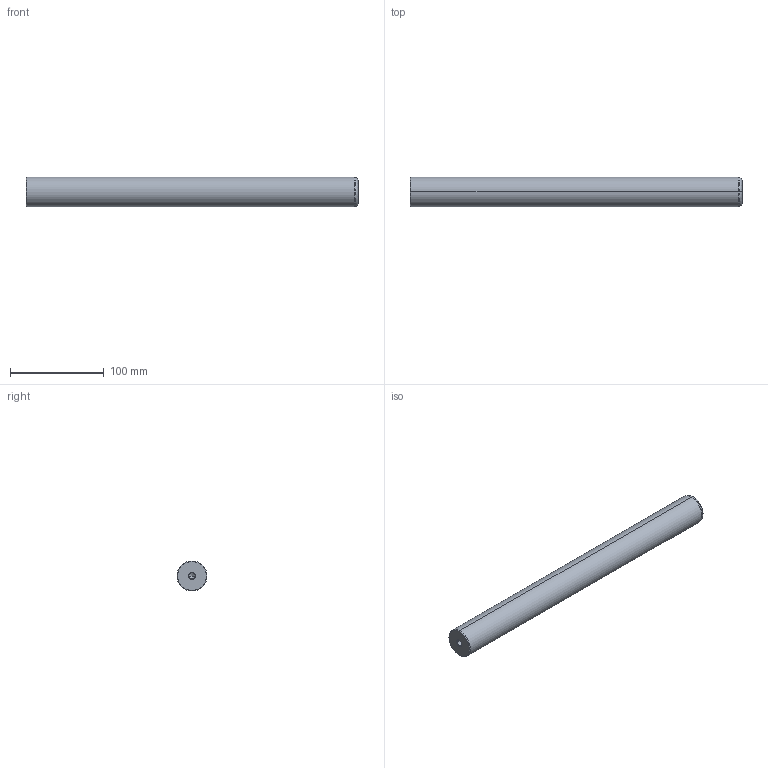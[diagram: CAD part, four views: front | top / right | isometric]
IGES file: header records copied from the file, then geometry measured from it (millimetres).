
Start section: START RECORD GO HERE.
Global section: file name: 720-32x355.igs; native system: DASSAULT SYSTEMES CATIA V5 R20 - www.3ds.com; preprocessor: CATIA Version 5 Release 20 ; author: Utente; organization: NB04-ASUS; date: 20210101.131242; units: millimetre
Bounding box: 355 x 32 x 32 mm (x, y, z)
Surface area: 38081.2 mm2 (no closed solid volume)
Topology: 0 solids, 0 shells, 22 faces, 120 edges, 116 vertices
Faces by surface type: revolution 20, plane 2
